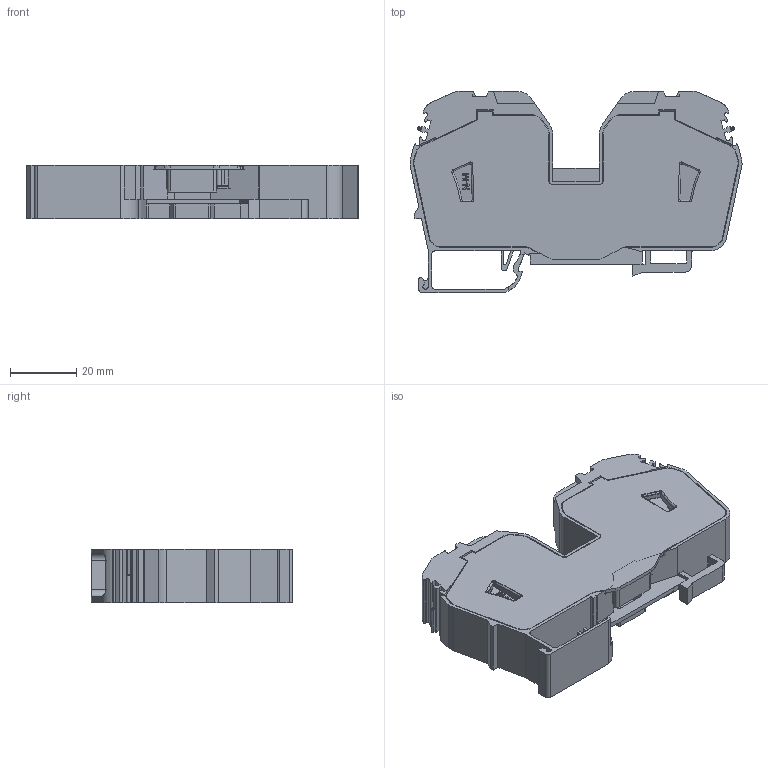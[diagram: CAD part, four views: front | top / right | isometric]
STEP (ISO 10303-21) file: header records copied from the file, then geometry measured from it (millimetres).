
FILE_DESCRIPTION (( 'STEP AP203' ), '1' );
FILE_NAME ('ﾊﾏﾐ1-35ﾂ-2ﾂ.STEP', '2019-03-04T09:13:03', ( '' ), ( '' ), 'SwSTEP 2.0', 'SolidWorks 2016', '' );
FILE_SCHEMA (( 'CONFIG_CONTROL_DESIGN' ));
Products named in the file (1): ﾊﾏﾐ1-35ﾂ-2ﾂ
Bounding box: 99.99 x 60.6 x 16 mm (x, y, z)
Volume: 40975.5 mm3; surface area: 58589.7 mm2
Topology: 9 solids, 9 shells, 2356 faces, 6388 edges, 4148 vertices
Faces by surface type: plane 1343, cylinder 581, bspline 252, torus 106, cone 56, sphere 18
Full cylindrical faces by diameter (mm): 2.06 x16, 2.26 x16, 2.3 x8, 3.9 x4
Entity records: 86426 total; most frequent: CARTESIAN_POINT 29479, ORIENTED_EDGE 12492, DIRECTION 10663, EDGE_CURVE 6246, VECTOR 4167, LINE 4167, VERTEX_POINT 4140, AXIS2_PLACEMENT_3D 3248
